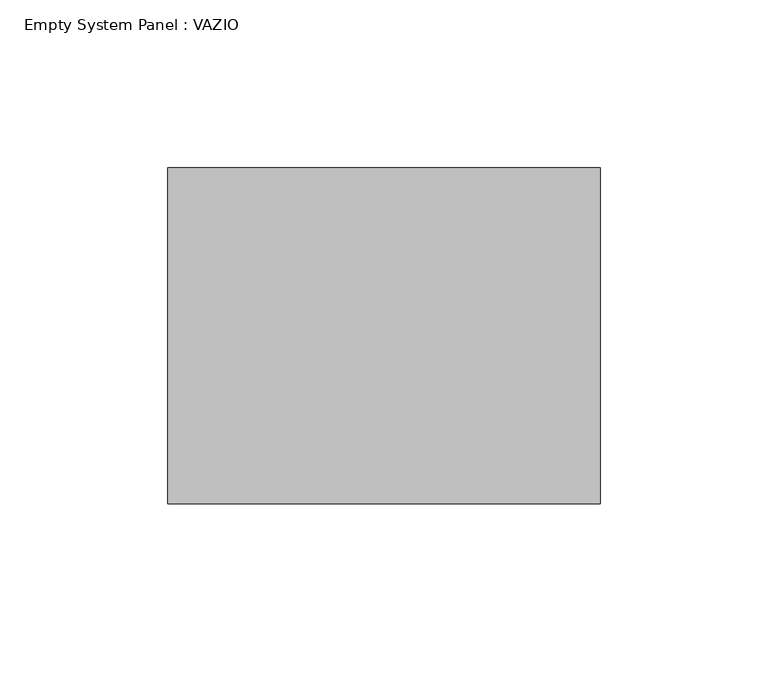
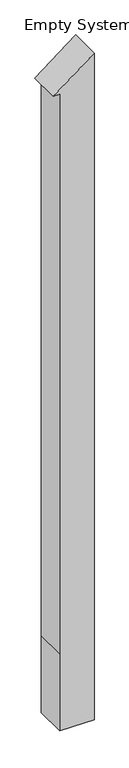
"""IFC4 building model written with IfcOpenShell, lengths in millimetres: plate geometry, Empty System Panel : VAZIO."""

import ifcopenshell
import ifcopenshell.guid

model = None  # the IFC model being written
_history = None  # IfcOwnerHistory: only IFC2X3 demands one
_inside = {}  # id of a spatial element -> (the spatial element, [elements in it])
_under = {}  # id of a project, library or spatial element -> (it, [spatial elements below it])
_declared = {}  # id of a project -> (the project, [libraries it declares])
_typed = {}  # id of a type object -> (the type object, [elements of that type])
_made_of = {}  # id of a material, layer set ... -> (it, [elements and type objects made of it])


def new_model(schema):
    """Start an empty IFC model of exactly this schema.

    Asked for "IFC4X3", IfcOpenShell would pick the latest addendum, in which some entities
    have other attributes; the version numbers below select the first issue.
    IFC2X3 requires an IfcOwnerHistory on every rooted entity: one is made here for all.
    """
    global model, _history
    if schema == "IFC4X3":
        model = ifcopenshell.file(schema_version=(4, 3, 0, 0))
    else:
        model = ifcopenshell.file(schema=schema)
    _inside.clear()
    _under.clear()
    _declared.clear()
    _typed.clear()
    _made_of.clear()
    _history = None
    if model.schema == "IFC2X3":
        org = make("IfcOrganization", Name="unknown")
        user = make(
            "IfcPersonAndOrganization",
            ThePerson=make("IfcPerson", FamilyName="unknown"),
            TheOrganization=org,
        )
        app = make(
            "IfcApplication",
            ApplicationDeveloper=org,
            Version="unknown",
            ApplicationFullName="unknown",
            ApplicationIdentifier="unknown",
        )
        _history = make(
            "IfcOwnerHistory",
            OwningUser=user,
            OwningApplication=app,
            ChangeAction="ADDED",
            CreationDate=0,
        )
    return model


def make(cls, **values):
    """One entity of the class cls with the attributes given. An attribute that is None is left unset."""
    return model.create_entity(
        cls, **{name: value for name, value in values.items() if value is not None}
    )


def rooted(cls, **values):
    """An entity with a GlobalId (a new one), such as an element, a storey or a relation."""
    return make(cls, GlobalId=ifcopenshell.guid.new(), OwnerHistory=_history, **values)


def si_unit(unit_type, name, prefix=None):
    """IfcSIUnit, for example si_unit("LENGTHUNIT", "METRE", prefix="MILLI")."""
    return make("IfcSIUnit", UnitType=unit_type, Prefix=prefix, Name=name)


def assignment(units):
    """IfcUnitAssignment: the units of a project."""
    return None if units is None else make("IfcUnitAssignment", Units=units)


def point(xyz):
    """IfcCartesianPoint."""
    return None if xyz is None else make("IfcCartesianPoint", Coordinates=xyz)


def direction(xyz):
    """IfcDirection."""
    return None if xyz is None else make("IfcDirection", DirectionRatios=xyz)


def frame(location, z_axis=None, x_axis=None):
    """IfcAxis2Placement3D, a coordinate frame: its origin and axes. An axis left out is left unset."""
    return make(
        "IfcAxis2Placement3D",
        Location=point(location),
        Axis=direction(z_axis),
        RefDirection=direction(x_axis),
    )


def frame_2d(location, x_axis=None):
    """IfcAxis2Placement2D, a coordinate frame in the plane: its origin and x axis."""
    return make(
        "IfcAxis2Placement2D", Location=point(location), RefDirection=direction(x_axis)
    )


def origin():
    """The frame at (0, 0, 0) with its axes left unset."""
    return frame((0.0, 0.0, 0.0))


def place(relative_to, where):
    """IfcLocalPlacement: puts the frame where relative to a parent placement (None: the world)."""
    return make(
        "IfcLocalPlacement", PlacementRelTo=relative_to, RelativePlacement=where
    )


def context(
    kind, dimensions, precision=None, world=None, true_north=None, identifier=None
):
    """IfcGeometricRepresentationContext, for example the 3D "Model" context."""
    return make(
        "IfcGeometricRepresentationContext",
        ContextIdentifier=identifier,
        ContextType=kind,
        CoordinateSpaceDimension=dimensions,
        Precision=precision,
        WorldCoordinateSystem=world,
        TrueNorth=true_north,
    )


def project(units=None, contexts=None):
    """IfcProject with its units and contexts."""
    return rooted(
        "IfcProject",
        Name="project",
        RepresentationContexts=contexts,
        UnitsInContext=assignment(units),
    )


def spatial(cls, under=None, at=None, **own):
    """A site, building, storey or space (cls), placed at a placement, below another one or the project."""
    s = rooted(cls, ObjectPlacement=at, **own)
    if under is not None:
        _under.setdefault(under.id(), (under, []))[1].append(s)
    return s


def polyline(points):
    """IfcPolyline through the points."""
    return make("IfcPolyline", Points=[point(p) for p in points])


def circle_curve(where, radius):
    """IfcCircle in the frame where."""
    return make("IfcCircle", Position=where, Radius=radius)


def trimmed(basis, trim1, trim2, sense, master):
    """IfcTrimmedCurve: the piece of a basis curve between two trims."""
    return make(
        "IfcTrimmedCurve",
        BasisCurve=basis,
        Trim1=trim1,
        Trim2=trim2,
        SenseAgreement=sense,
        MasterRepresentation=master,
    )


def segment(curve, same_sense, transition):
    """IfcCompositeCurveSegment."""
    return make(
        "IfcCompositeCurveSegment",
        Transition=transition,
        SameSense=same_sense,
        ParentCurve=curve,
    )


def composite_curve(segments, self_intersect=None):
    """IfcCompositeCurve: segments joined end to end."""
    return make("IfcCompositeCurve", Segments=segments, SelfIntersect=self_intersect)


def outline(outer, holes=None, kind="AREA"):
    """IfcArbitraryClosedProfileDef: a profile drawn as a closed curve; with holes, ...WithVoids."""
    if holes is None:
        return make("IfcArbitraryClosedProfileDef", ProfileType=kind, OuterCurve=outer)
    return make(
        "IfcArbitraryProfileDefWithVoids",
        ProfileType=kind,
        OuterCurve=outer,
        InnerCurves=holes,
    )


def extrude(swept, where, along, depth):
    """IfcExtrudedAreaSolid: the profile swept, set in the frame where, extruded along a direction by depth."""
    return make(
        "IfcExtrudedAreaSolid",
        SweptArea=swept,
        Position=where,
        ExtrudedDirection=direction(along),
        Depth=depth,
    )


def shape(context_of_items, identifier, shape_type, items):
    """IfcShapeRepresentation: the items that make up one representation, for example the "Body"."""
    return make(
        "IfcShapeRepresentation",
        ContextOfItems=context_of_items,
        RepresentationIdentifier=identifier,
        RepresentationType=shape_type,
        Items=items,
    )


def source(mapping_origin, context_of_items, identifier, shape_type, items):
    """IfcRepresentationMap: a shape defined once, which mapped items show again and again."""
    return make(
        "IfcRepresentationMap",
        MappingOrigin=mapping_origin,
        MappedRepresentation=shape(context_of_items, identifier, shape_type, items),
    )


def transform(
    local_origin,
    x_axis=None,
    y_axis=None,
    z_axis=None,
    scale=None,
    scale2=None,
    scale3=None,
    uniform=True,
):
    """IfcCartesianTransformationOperator3D, or its non-uniform kind. x_axis, y_axis, z_axis: its Axis1, 2, 3."""
    if uniform:
        return make(
            "IfcCartesianTransformationOperator3D",
            Axis1=direction(x_axis),
            Axis2=direction(y_axis),
            LocalOrigin=point(local_origin),
            Scale=scale,
            Axis3=direction(z_axis),
        )
    return make(
        "IfcCartesianTransformationOperator3DnonUniform",
        Axis1=direction(x_axis),
        Axis2=direction(y_axis),
        LocalOrigin=point(local_origin),
        Scale=scale,
        Axis3=direction(z_axis),
        Scale2=scale2,
        Scale3=scale3,
    )


def mapped(mapping_source, mapping_target):
    """IfcMappedItem: shows the shape of a source again, moved by a transform."""
    return make(
        "IfcMappedItem", MappingSource=mapping_source, MappingTarget=mapping_target
    )


def made_of(thing, what):
    """Note that an element or type object is made of a material, layer set ...; save() writes the relation."""
    if what is not None:
        _made_of.setdefault(what.id(), (what, []))[1].append(thing)
    return thing


def element(
    cls,
    number,
    at=None,
    inside=None,
    cuts=None,
    type_object=None,
    material=None,
    context=None,
    identifier="Body",
    shape_type=None,
    held_by="IfcProductDefinitionShape",
    body=None,
    shapes=None,
    **own,
):
    """One element of the class cls, such as IfcWall. Its Tag is "e" and its number.

    at: its placement. inside: the storey or other place that contains it. cuts: it is an
    opening in that element (IfcRelVoidsElement). A single representation is given by context,
    identifier, shape_type and body (its items); several are given by shapes. held_by: the class
    of the entity that holds the representations. save() writes the other relations.
    """
    e = rooted(cls, Tag="e%d" % number, ObjectPlacement=at, **own)
    if body is not None:
        shapes = [shape(context, identifier, shape_type, body)]
    if shapes is not None:
        e.Representation = make(held_by, Representations=shapes)
    if inside is not None:
        _inside.setdefault(inside.id(), (inside, []))[1].append(e)
    if cuts is not None:
        rooted(
            "IfcRelVoidsElement", RelatingBuildingElement=cuts, RelatedOpeningElement=e
        )
    if type_object is not None:
        _typed.setdefault(type_object.id(), (type_object, []))[1].append(e)
    return made_of(e, material)


def aggregate(whole, parts):
    """IfcRelAggregates: a whole, such as a stair, and the parts it consists of."""
    return rooted("IfcRelAggregates", RelatingObject=whole, RelatedObjects=parts)


def save(model, path):
    """Write the relations noted so far, then the file.

    IfcRelAggregates (storeys below a building ...), IfcRelContainedInSpatialStructure (elements
    in a storey), IfcRelDefinesByType, IfcRelAssociatesMaterial and IfcRelDeclares: one each for
    every whole, place, type object, material and project.
    """
    for whole, parts in _under.values():
        aggregate(whole, parts)
    for where, things in _inside.values():
        rooted(
            "IfcRelContainedInSpatialStructure",
            RelatedElements=things,
            RelatingStructure=where,
        )
    for kind, things in _typed.values():
        rooted("IfcRelDefinesByType", RelatedObjects=things, RelatingType=kind)
    for what, things in _made_of.values():
        rooted("IfcRelAssociatesMaterial", RelatedObjects=things, RelatingMaterial=what)
    for by, libraries in _declared.values():
        rooted("IfcRelDeclares", RelatingContext=by, RelatedDefinitions=libraries)
    model.write(path)


def empty_system_panel_vazio_d471524a(model_context):
    return source(origin(), model_context, "Body", "SweptSolid", [
        extrude(outline(composite_curve([segment(polyline([(0.0, -44.3902439), (0.0, 64.3902439), (256.7936467, 64.3902439), (2222.5300337, 64.3902439)]), True, "CONTINUOUS"), segment(trimmed(circle_curve(frame_2d((3146.6227404, -747.3678913)), 1229.9994311), [point((2222.5300337, 64.3902439))], [point((2123.6661755, -64.3902439))], True, "CARTESIAN"), True, "CONTINUOUS"), segment(polyline([(2123.6661755, -64.3902439), (2123.6661755, -44.3902439), (256.7936467, -44.3902439), (0.0, -44.3902439)]), True, "CONTINUOUS")], self_intersect=False)), frame((0.0, -50.0, 0.0), z_axis=(0.0, 1.0, 0.0), x_axis=(0.0, 0.0, 1.0)), (0.0, 0.0, 1.0), 100.0),
    ])


if __name__ == "__main__":
    model = new_model("IFC4")
    model_context = context("Model", 3, world=origin())
    ifc_project = project(units=[si_unit("LENGTHUNIT", "METRE", prefix="MILLI")], contexts=[model_context])
    site = spatial("IfcSite", under=ifc_project)
    building = spatial("IfcBuilding", under=site)
    placement = place(None, origin())
    empty_system_panel_vazio_shape = empty_system_panel_vazio_d471524a(model_context)
    element("IfcPlate", 1, ObjectType="Empty System Panel : VAZIO", at=placement, inside=building, context=model_context, shape_type="MappedRepresentation", body=[
        mapped(empty_system_panel_vazio_shape, transform((0.0, 0.0, 0.0), x_axis=(1.0, 0.0, 0.0), y_axis=(0.0, 1.0, 0.0), z_axis=(0.0, 0.0, 1.0))),
    ])
    save(model, "model.ifc")
